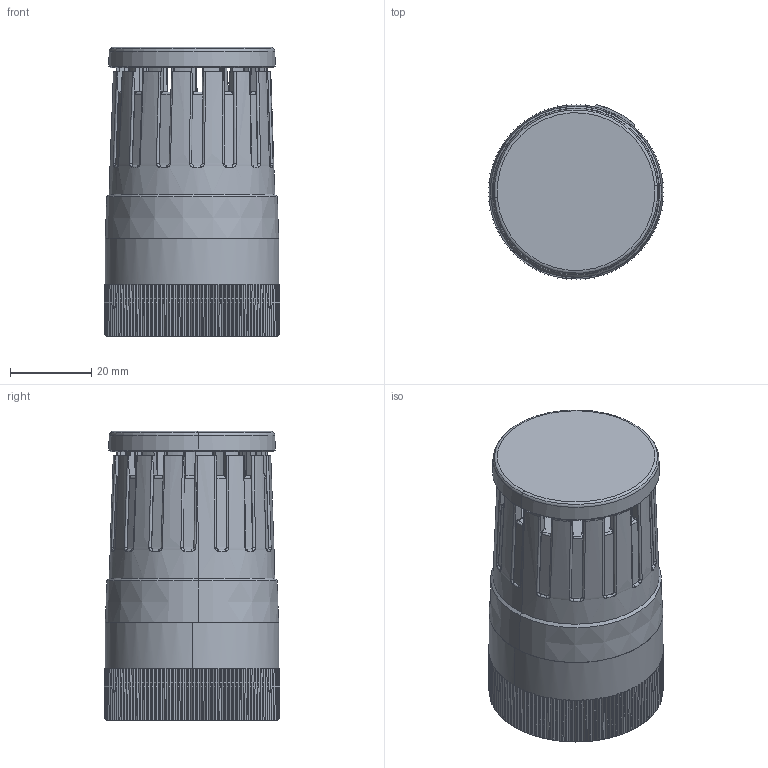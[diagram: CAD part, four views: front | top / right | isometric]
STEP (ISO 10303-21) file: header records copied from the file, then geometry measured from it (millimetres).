
FILE_DESCRIPTION((''),'2;1');
FILE_NAME('10000161654_SW0001','2012-02-14T',('WJPreisc'),('Rockwell Automation'),'PRO/ENGINEER BY PARAMETRIC TECHNOLOGY CORPORATION, 2010140','PRO/ENGINEER BY PARAMETRIC TECHNOLOGY CORPORATION, 2010140','');
FILE_SCHEMA(('CONFIG_CONTROL_DESIGN'));
Products named in the file (1): 10000161654_SW0001
Bounding box: 43.22 x 43.22 x 71.1 mm (x, y, z)
Surface area: 27440.7 mm2 (no closed solid volume)
Topology: 0 solids, 127 shells, 1233 faces, 5477 edges, 4129 vertices
Faces by surface type: plane 586, cone 218, bspline 182, cylinder 110, torus 98, sphere 24, extrusion 15
Entity records: 64864 total; most frequent: CARTESIAN_POINT 25102, ORIENTED_EDGE 7620, DIRECTION 7254, EDGE_CURVE 5446, VERTEX_POINT 4129, AXIS2_PLACEMENT_3D 2532, VECTOR 2190, LINE 2175
